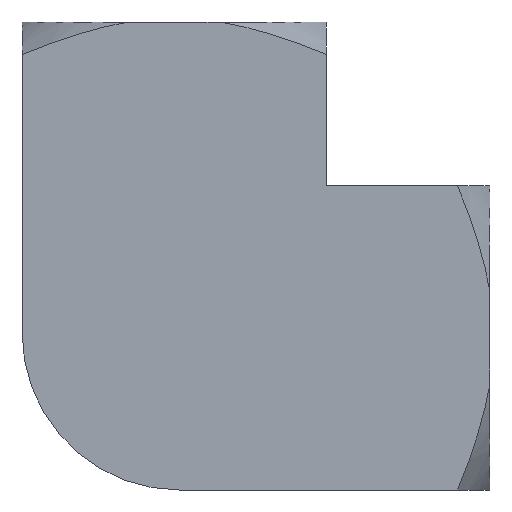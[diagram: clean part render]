
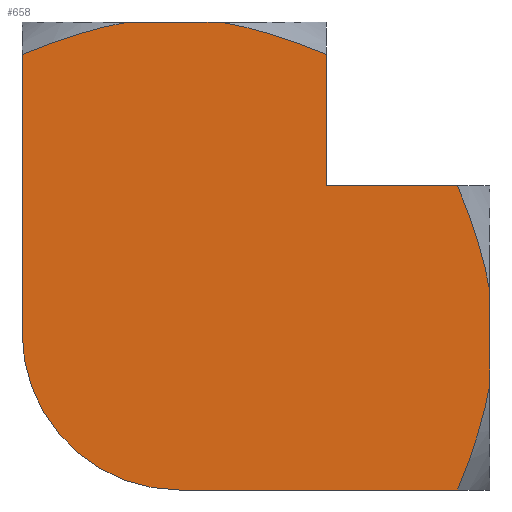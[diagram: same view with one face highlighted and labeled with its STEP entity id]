
A CAD part, front view. The second image highlights one B-rep face of the part: STEP entity #658.
In plain terms, the highlighted planar face has unit normal (0, -1, 0).
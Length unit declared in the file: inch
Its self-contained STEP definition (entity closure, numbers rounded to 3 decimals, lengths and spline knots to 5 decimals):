
#17=(
BOUNDED_CURVE()
B_SPLINE_CURVE(2,(#1153,#1154,#1155),.UNSPECIFIED.,.F.,.F.)
B_SPLINE_CURVE_WITH_KNOTS((3,3),(0.,0.7526),.UNSPECIFIED.)
CURVE()
GEOMETRIC_REPRESENTATION_ITEM()
RATIONAL_B_SPLINE_CURVE((1.,1.043,1.))
REPRESENTATION_ITEM('')
);
#18=(
BOUNDED_CURVE()
B_SPLINE_CURVE(2,(#1157,#1158,#1159),.UNSPECIFIED.,.F.,.F.)
B_SPLINE_CURVE_WITH_KNOTS((3,3),(0.,0.7526),.UNSPECIFIED.)
CURVE()
GEOMETRIC_REPRESENTATION_ITEM()
RATIONAL_B_SPLINE_CURVE((1.,1.043,1.))
REPRESENTATION_ITEM('')
);
#19=(
BOUNDED_CURVE()
B_SPLINE_CURVE(2,(#1164,#1165,#1166),.UNSPECIFIED.,.F.,.F.)
B_SPLINE_CURVE_WITH_KNOTS((3,3),(0.,0.75449),.UNSPECIFIED.)
CURVE()
GEOMETRIC_REPRESENTATION_ITEM()
RATIONAL_B_SPLINE_CURVE((1.,1.043,1.))
REPRESENTATION_ITEM('')
);
#20=(
BOUNDED_CURVE()
B_SPLINE_CURVE(2,(#1168,#1169,#1170),.UNSPECIFIED.,.F.,.F.)
B_SPLINE_CURVE_WITH_KNOTS((3,3),(0.,0.75449),.UNSPECIFIED.)
CURVE()
GEOMETRIC_REPRESENTATION_ITEM()
RATIONAL_B_SPLINE_CURVE((1.,1.043,1.))
REPRESENTATION_ITEM('')
);
#40=PLANE('',#745);
#80=FACE_OUTER_BOUND('',#122,.T.);
#122=EDGE_LOOP('',(#531,#532,#533,#534,#535,#536,#537,#538,#539,#540,#541,
#542,#543));
#167=CIRCLE('',#742,0.42);
#195=LINE('',#1031,#231);
#201=LINE('',#1062,#237);
#206=LINE('',#1133,#242);
#212=LINE('',#1152,#248);
#213=LINE('',#1161,#249);
#214=LINE('',#1163,#250);
#215=LINE('',#1172,#251);
#216=LINE('',#1173,#252);
#231=VECTOR('',#818,0.3937);
#237=VECTOR('',#848,0.3937);
#242=VECTOR('',#899,0.3937);
#248=VECTOR('',#907,0.3937);
#249=VECTOR('',#908,0.3937);
#250=VECTOR('',#909,0.3937);
#251=VECTOR('',#910,0.3937);
#252=VECTOR('',#911,0.3937);
#279=VERTEX_POINT('',#1028);
#280=VERTEX_POINT('',#1030);
#292=VERTEX_POINT('',#1059);
#293=VERTEX_POINT('',#1061);
#301=VERTEX_POINT('',#1123);
#302=VERTEX_POINT('',#1124);
#305=VERTEX_POINT('',#1132);
#311=VERTEX_POINT('',#1151);
#312=VERTEX_POINT('',#1156);
#313=VERTEX_POINT('',#1160);
#314=VERTEX_POINT('',#1162);
#315=VERTEX_POINT('',#1167);
#316=VERTEX_POINT('',#1171);
#350=EDGE_CURVE('',#279,#280,#195,.T.);
#365=EDGE_CURVE('',#292,#293,#201,.T.);
#380=EDGE_CURVE('',#301,#302,#167,.T.);
#384=EDGE_CURVE('',#302,#305,#206,.T.);
#392=EDGE_CURVE('',#311,#301,#212,.T.);
#393=EDGE_CURVE('',#293,#311,#17,.T.);
#394=EDGE_CURVE('',#312,#292,#18,.T.);
#395=EDGE_CURVE('',#312,#313,#213,.T.);
#396=EDGE_CURVE('',#314,#313,#214,.T.);
#397=EDGE_CURVE('',#280,#314,#19,.T.);
#398=EDGE_CURVE('',#315,#279,#20,.T.);
#399=EDGE_CURVE('',#316,#315,#215,.T.);
#400=EDGE_CURVE('',#316,#305,#216,.T.);
#531=ORIENTED_EDGE('',*,*,#380,.F.);
#532=ORIENTED_EDGE('',*,*,#392,.F.);
#533=ORIENTED_EDGE('',*,*,#393,.F.);
#534=ORIENTED_EDGE('',*,*,#365,.F.);
#535=ORIENTED_EDGE('',*,*,#394,.F.);
#536=ORIENTED_EDGE('',*,*,#395,.T.);
#537=ORIENTED_EDGE('',*,*,#396,.F.);
#538=ORIENTED_EDGE('',*,*,#397,.F.);
#539=ORIENTED_EDGE('',*,*,#350,.F.);
#540=ORIENTED_EDGE('',*,*,#398,.F.);
#541=ORIENTED_EDGE('',*,*,#399,.F.);
#542=ORIENTED_EDGE('',*,*,#400,.T.);
#543=ORIENTED_EDGE('',*,*,#384,.F.);
#658=ADVANCED_FACE('',(#80),#40,.F.);
#742=AXIS2_PLACEMENT_3D('',#1125,#891,#892);
#745=AXIS2_PLACEMENT_3D('',#1150,#905,#906);
#818=DIRECTION('',(1.,0.,0.));
#848=DIRECTION('',(0.,0.,-1.));
#891=DIRECTION('center_axis',(0.,1.,0.));
#892=DIRECTION('ref_axis',(-0.707,0.,-0.707));
#899=DIRECTION('',(0.,0.,1.));
#905=DIRECTION('center_axis',(0.,1.,0.));
#906=DIRECTION('ref_axis',(0.,0.,-1.));
#907=DIRECTION('',(-1.,0.,0.));
#908=DIRECTION('',(-1.,0.,0.));
#909=DIRECTION('',(0.,0.,-1.));
#910=DIRECTION('',(0.,0.,1.));
#911=DIRECTION('',(-1.,0.,0.));
#1028=CARTESIAN_POINT('',(-0.1223,-0.4065,0.8435));
#1030=CARTESIAN_POINT('',(0.1223,-0.4065,0.8435));
#1031=CARTESIAN_POINT('',(-0.20325,-0.4065,0.8435));
#1059=CARTESIAN_POINT('',(0.843,-0.4065,0.12361));
#1061=CARTESIAN_POINT('',(0.843,-0.4065,-0.12361));
#1062=CARTESIAN_POINT('',(0.843,-0.4065,0.20325));
#1123=CARTESIAN_POINT('',(0.0135,-0.4065,-0.4065));
#1124=CARTESIAN_POINT('',(-0.4065,-0.4065,0.0135));
#1125=CARTESIAN_POINT('Origin',(0.0135,-0.4065,0.0135));
#1132=CARTESIAN_POINT('',(-0.4065,-0.4065,0.4065));
#1133=CARTESIAN_POINT('',(-0.4065,-0.4065,0.20325));
#1150=CARTESIAN_POINT('Origin',(0.843,-0.4065,0.4065));
#1151=CARTESIAN_POINT('',(0.7564,-0.4065,-0.4065));
#1152=CARTESIAN_POINT('',(0.,-0.4065,-0.4065));
#1153=CARTESIAN_POINT('Ctrl Pts',(0.843,-0.4065,-0.12361));
#1154=CARTESIAN_POINT('Ctrl Pts',(0.82281,-0.4065,-0.24383));
#1155=CARTESIAN_POINT('Ctrl Pts',(0.7564,-0.4065,-0.4065));
#1156=CARTESIAN_POINT('',(0.7564,-0.4065,0.4065));
#1157=CARTESIAN_POINT('Ctrl Pts',(0.7564,-0.4065,0.4065));
#1158=CARTESIAN_POINT('Ctrl Pts',(0.82281,-0.4065,0.24383));
#1159=CARTESIAN_POINT('Ctrl Pts',(0.843,-0.4065,0.12361));
#1160=CARTESIAN_POINT('',(0.40597,-0.4065,0.4065));
#1161=CARTESIAN_POINT('',(0.,-0.4065,0.4065));
#1162=CARTESIAN_POINT('',(0.40597,-0.4065,0.7569));
#1163=CARTESIAN_POINT('',(0.40597,-0.4065,0.4065));
#1164=CARTESIAN_POINT('Ctrl Pts',(0.1223,-0.4065,0.8435));
#1165=CARTESIAN_POINT('Ctrl Pts',(0.24284,-0.4065,0.82345));
#1166=CARTESIAN_POINT('Ctrl Pts',(0.40597,-0.4065,0.7569));
#1167=CARTESIAN_POINT('',(-0.40597,-0.4065,0.7569));
#1168=CARTESIAN_POINT('Ctrl Pts',(-0.40597,-0.4065,0.7569));
#1169=CARTESIAN_POINT('Ctrl Pts',(-0.24284,-0.4065,0.82345));
#1170=CARTESIAN_POINT('Ctrl Pts',(-0.1223,-0.4065,0.8435));
#1171=CARTESIAN_POINT('',(-0.40597,-0.4065,0.4065));
#1172=CARTESIAN_POINT('',(-0.40597,-0.4065,0.4065));
#1173=CARTESIAN_POINT('',(0.,-0.4065,0.4065));
